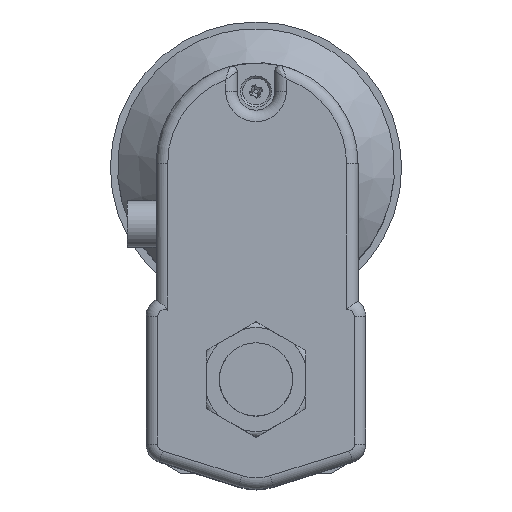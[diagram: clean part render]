
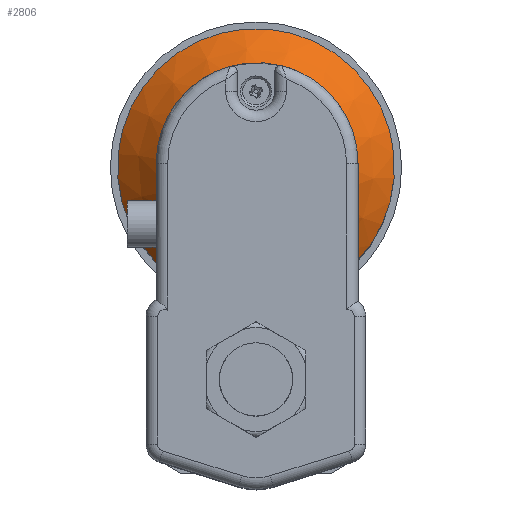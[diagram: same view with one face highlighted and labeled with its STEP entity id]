
A CAD part, top view. The second image highlights one B-rep face of the part: STEP entity #2806.
In plain terms, the highlighted conical face has half-angle 45 degrees and reference radius 48 mm.
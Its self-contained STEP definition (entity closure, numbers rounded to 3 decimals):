
#215 = EDGE_LOOP ( 'NONE', ( #3061, #3425 ) ) ;
#264 = EDGE_LOOP ( 'NONE', ( #2956 ) ) ;
#481 = VERTEX_POINT ( 'NONE', #632 ) ;
#632 = CARTESIAN_POINT ( 'NONE',  ( 27.908, 34.847, 53.5 ) ) ;
#1018 = CARTESIAN_POINT ( 'NONE',  ( -16.779, 34.077, 58.344 ) ) ;
#1019 = CARTESIAN_POINT ( 'NONE',  ( -19.06, 34.223, 57.53 ) ) ;
#1020 = CARTESIAN_POINT ( 'NONE',  ( -12.101, 33.829, 59.657 ) ) ;
#1021 = CARTESIAN_POINT ( 'NONE',  ( -8.505, 33.679, 60.407 ) ) ;
#1022 = CARTESIAN_POINT ( 'NONE',  ( -26.826, 34.768, 54.065 ) ) ;
#1023 = CARTESIAN_POINT ( 'NONE',  ( -2.415, 33.538, 61.085 ) ) ;
#1024 = CARTESIAN_POINT ( 'NONE',  ( -4.863, 33.577, 60.903 ) ) ;
#1025 = CARTESIAN_POINT ( 'NONE',  ( 4.908, 33.569, 60.942 ) ) ;
#1027 = CARTESIAN_POINT ( 'NONE',  ( 27.908, 34.847, 53.5 ) ) ;
#1028 = CARTESIAN_POINT ( 'NONE',  ( 19.078, 34.224, 57.523 ) ) ;
#1029 = CARTESIAN_POINT ( 'NONE',  ( 16.801, 34.078, 58.337 ) ) ;
#1030 = CARTESIAN_POINT ( 'NONE',  ( -25.733, 34.688, 54.609 ) ) ;
#1031 = CARTESIAN_POINT ( 'NONE',  ( -22.421, 34.452, 56.137 ) ) ;
#1032 = CARTESIAN_POINT ( 'NONE',  ( 2.477, 33.529, 61.127 ) ) ;
#1033 = CARTESIAN_POINT ( 'NONE',  ( -23.531, 34.53, 55.644 ) ) ;
#1034 = CARTESIAN_POINT ( 'NONE',  ( 12.13, 33.83, 59.65 ) ) ;
#1036 = CARTESIAN_POINT ( 'NONE',  ( -9.715, 33.725, 60.183 ) ) ;
#1038 = CARTESIAN_POINT ( 'NONE',  ( 25.745, 34.688, 54.629 ) ) ;
#1040 = CARTESIAN_POINT ( 'NONE',  ( -1.188, 33.529, 61.13 ) ) ;
#1041 = CARTESIAN_POINT ( 'NONE',  ( 9.746, 33.726, 60.177 ) ) ;
#1042 = CARTESIAN_POINT ( 'NONE',  ( -6.081, 33.605, 60.767 ) ) ;
#1043 = CARTESIAN_POINT ( 'NONE',  ( -13.28, 33.887, 59.356 ) ) ;
#1044 = CARTESIAN_POINT ( 'NONE',  ( 23.55, 34.529, 55.668 ) ) ;
#1046 = CARTESIAN_POINT ( 'NONE',  ( 8.537, 33.68, 60.402 ) ) ;
#1047 = CARTESIAN_POINT ( 'NONE',  ( 13.307, 33.888, 59.348 ) ) ;
#1261 = EDGE_CURVE ( 'NONE', #5313, #481, #4990, .T. ) ;
#1291 = EDGE_CURVE ( 'NONE', #481, #5313, #4420, .T. ) ;
#1292 = EDGE_CURVE ( 'NONE', #9279, #9279, #4422, .T. ) ;
#1621 = AXIS2_PLACEMENT_3D ( 'NONE', #5401, #5414, #5415 ) ;
#1623 = AXIS2_PLACEMENT_3D ( 'NONE', #5406, #5416, #5417 ) ;
#1819 = AXIS2_PLACEMENT_3D ( 'NONE', #6451, #6452, #6448 ) ;
#2215 = CARTESIAN_POINT ( 'NONE',  ( -27.908, 34.847, 53.5 ) ) ;
#2806 = ADVANCED_FACE ( 'NONE', ( #6657, #6655 ), #6644, .T. ) ;
#2956 = ORIENTED_EDGE ( 'NONE', *, *, #1292, .F. ) ;
#3061 = ORIENTED_EDGE ( 'NONE', *, *, #1291, .T. ) ;
#3425 = ORIENTED_EDGE ( 'NONE', *, *, #1261, .T. ) ;
#4420 = CIRCLE ( 'NONE', #1621, 48. ) ;
#4422 = CIRCLE ( 'NONE', #1623, 34. ) ;
#4990 = B_SPLINE_CURVE_WITH_KNOTS ( 'NONE', 3,
 ( #2215, #1022, #1030, #1033, #1031, #1019, #1018, #1043, #1020, #1036, #1021, #1042, #1024, #1023, #1040, #1032, #1025, #1046, #1041, #1034, #1047, #1029, #1028, #1044, #1038, #1027 ),
 .UNSPECIFIED., .F., .F.,
 ( 4, 2, 2, 2, 2, 2, 2, 2, 2, 2, 2, 2, 4 ),
 ( 0., 0.004, 0.007, 0.015, 0.018, 0.022, 0.026, 0.029, 0.037, 0.04, 0.044, 0.051, 0.059 ),
 .UNSPECIFIED. ) ;
#5313 = VERTEX_POINT ( 'NONE', #9057 ) ;
#5401 = CARTESIAN_POINT ( 'NONE',  ( 0., 73.9, 53.5 ) ) ;
#5406 = CARTESIAN_POINT ( 'NONE',  ( 0., 73.9, 67.5 ) ) ;
#5414 = DIRECTION ( 'NONE',  ( 0., 0., 1. ) ) ;
#5415 = DIRECTION ( 'NONE',  ( 0., -1., 0. ) ) ;
#5416 = DIRECTION ( 'NONE',  ( 0., 0., 1. ) ) ;
#5417 = DIRECTION ( 'NONE',  ( 0., -1., 0. ) ) ;
#6448 = DIRECTION ( 'NONE',  ( 0., 1., 0. ) ) ;
#6451 = CARTESIAN_POINT ( 'NONE',  ( 0., 73.9, 53.5 ) ) ;
#6452 = DIRECTION ( 'NONE',  ( 0., 0., -1. ) ) ;
#6644 = CONICAL_SURFACE ( 'NONE', #1819, 48., 0.785 ) ;
#6655 = FACE_OUTER_BOUND ( 'NONE', #215, .T. ) ;
#6657 = FACE_BOUND ( 'NONE', #264, .T. ) ;
#9057 = CARTESIAN_POINT ( 'NONE',  ( -27.908, 34.847, 53.5 ) ) ;
#9279 = VERTEX_POINT ( 'NONE', #9280 ) ;
#9280 = CARTESIAN_POINT ( 'NONE',  ( 0., 39.9, 67.5 ) ) ;
